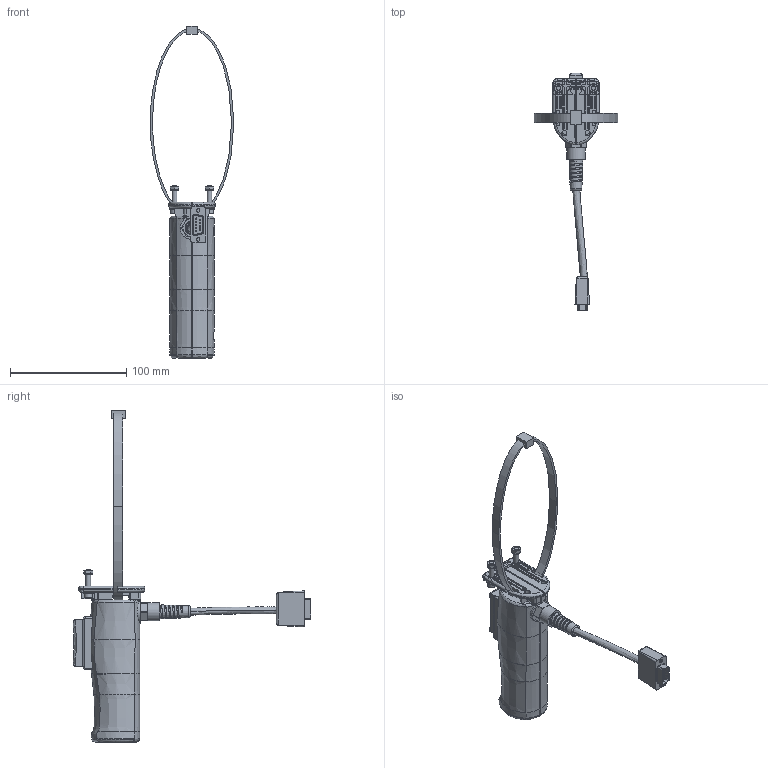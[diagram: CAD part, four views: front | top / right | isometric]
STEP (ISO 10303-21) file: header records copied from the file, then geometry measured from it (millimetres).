
FILE_DESCRIPTION((''),'2;1');
FILE_NAME('C:\1 WIP\Website Data\1176444 Pistol Grip Trigger Assembly.stp','2012-04-23T07:48:29',('patch'),(''),'Autodesk Inventor 2013','Autodesk Inventor 2013','');
FILE_SCHEMA(('AUTOMOTIVE_DESIGN { 1 0 10303 214 1 1 1 1 }'));
Length unit declared in the file: millimetre
Products named in the file (16): 1176444 Pistol Grip Trigger Assembly.iam (LevelofDetail1); 8901698 On - Off Trigger Switch Assembly; 8901698 On - Off Trigger Switch_1; 8901698 On - Off Trigger Switch_2; 8901698 On - Off Trigger Switch_3; 8901847 Pistol Grip Trigger Left Handle; 8901846 Pistol Grip Trigger Right Handle; 8901698 Cable Strain Relief; 8901698 M4_7X16; 8901698 D-Sub 9 Pin Male Cable; 8901749 Valve Mounting Block; 8901698 Large Zip Tie; Nut GB/T 6170-2000 M4; 8901698 Screw M4X20GB70; 8900226 Rev A M4 Flat Washer; Washer GB 859-87 4
Assembly tree (20 placements, depth 3):
  1176444 Pistol Grip Trigger Assembly.iam (LevelofDetail1)
    8901698 On - Off Trigger Switch Assembly
      8901698 On - Off Trigger Switch_1
      8901698 On - Off Trigger Switch_2
      8901698 On - Off Trigger Switch_3
    8901847 Pistol Grip Trigger Left Handle
    8901846 Pistol Grip Trigger Right Handle
    8901698 Cable Strain Relief
    8901698 M4_7X16  x2
    8901698 D-Sub 9 Pin Male Cable
    8901749 Valve Mounting Block
    8901698 Large Zip Tie
    Nut GB/T 6170-2000 M4  x2
    8901698 Screw M4X20GB70  x2
    8900226 Rev A M4 Flat Washer  x2
    Washer GB 859-87 4  x2
Bounding box: 72 x 204.43 x 285.6 mm (x, y, z)
Volume: 89404 mm3; surface area: 85660.3 mm2
Topology: 19 solids, 19 shells, 1341 faces, 3442 edges, 2183 vertices
Faces by surface type: plane 621, bspline 342, cylinder 276, cone 60, torus 33, sphere 9
Full cylindrical faces by diameter (mm): 0.8 x11, 1.168 x9, 2.8 x4, 3 x4, 3.048 x2, 3.242 x2, 3.5 x2, 4 x4, 4.293 x2, 4.343 x2, 4.5 x6, 5.156 x1, 7 x4, 7.925 x1, 8 x5, 8.992 x2, 12 x3, 15.588 x1
Entity records: 65316 total; most frequent: CARTESIAN_POINT 36785, ORIENTED_EDGE 6286, DIRECTION 4693, EDGE_CURVE 3143, VERTEX_POINT 2054, AXIS2_PLACEMENT_3D 1630, VECTOR 1433, LINE 1433
